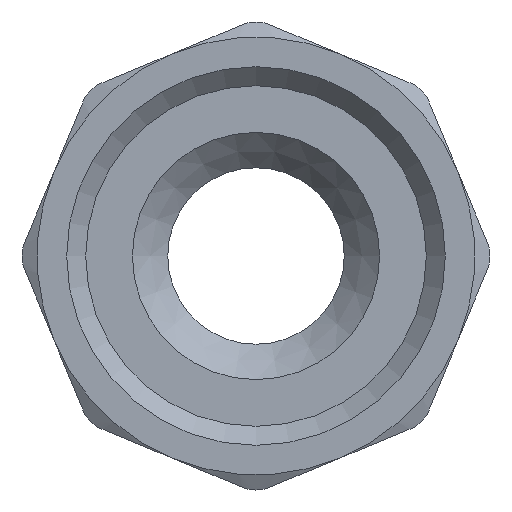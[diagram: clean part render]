
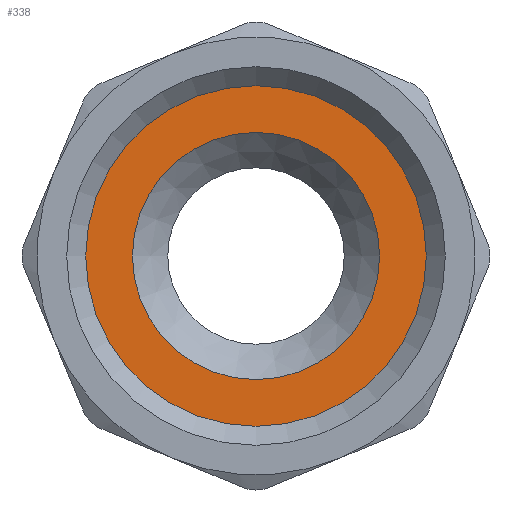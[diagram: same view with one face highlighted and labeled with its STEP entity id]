
A CAD part, front view. The second image highlights one B-rep face of the part: STEP entity #338.
In plain terms, the highlighted planar face has unit normal (0, -1, 0).
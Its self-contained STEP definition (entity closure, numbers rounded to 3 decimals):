
#338=ADVANCED_FACE('',(#897,#899),#901,.F.);
#897=FACE_BOUND('',#898,.T.);
#898=EDGE_LOOP('',(#1374));
#899=FACE_BOUND('',#900,.T.);
#900=EDGE_LOOP('',(#1375));
#901=PLANE('',#902);
#902=AXIS2_PLACEMENT_3D('',#903,#904,#905);
#903=CARTESIAN_POINT('',(0.,0.,0.));
#904=DIRECTION('',(0.,1.,0.));
#905=DIRECTION('',(-1.,0.,0.));
#1374=ORIENTED_EDGE('',*,*,#1613,.F.);
#1375=ORIENTED_EDGE('',*,*,#1614,.T.);
#1613=EDGE_CURVE('',#1826,#1826,#1827,.T.);
#1614=EDGE_CURVE('',#1828,#1828,#1829,.T.);
#1826=VERTEX_POINT('',#2294);
#1827=CIRCLE('',#2295,12.1);
#1828=VERTEX_POINT('',#2299);
#1829=CIRCLE('',#2300,8.75);
#2294=CARTESIAN_POINT('',(-12.1,0.,0.));
#2295=AXIS2_PLACEMENT_3D('',#2296,#2297,#2298);
#2296=CARTESIAN_POINT('',(0.,0.,0.));
#2297=DIRECTION('',(0.,1.,0.));
#2298=DIRECTION('',(-1.,0.,0.));
#2299=CARTESIAN_POINT('',(-8.75,0.,0.));
#2300=AXIS2_PLACEMENT_3D('',#2301,#2302,#2303);
#2301=CARTESIAN_POINT('',(0.,0.,0.));
#2302=DIRECTION('',(0.,1.,0.));
#2303=DIRECTION('',(-1.,0.,0.));
